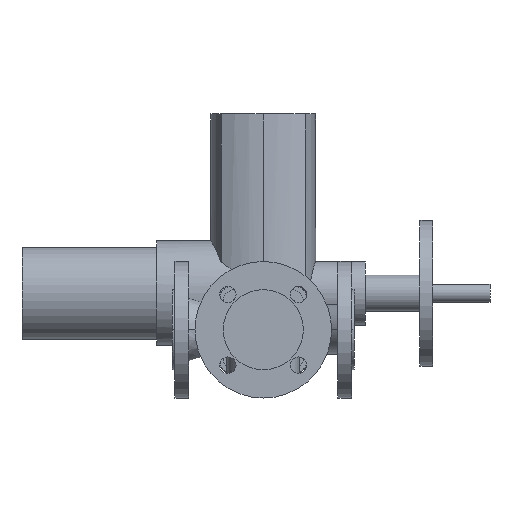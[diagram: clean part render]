
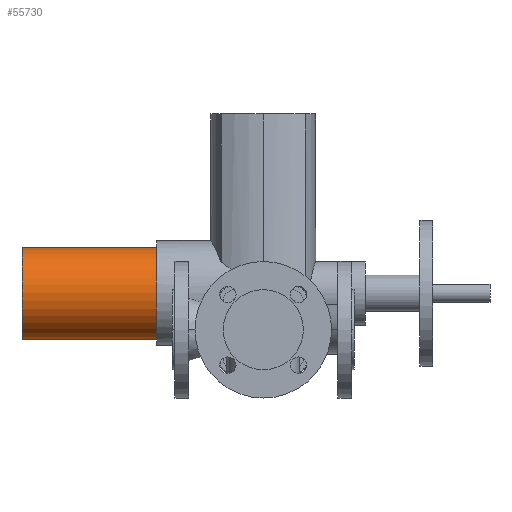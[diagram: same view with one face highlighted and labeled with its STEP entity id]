
A CAD part, front view. The second image highlights one B-rep face of the part: STEP entity #55730.
In plain terms, the highlighted cylindrical face has radius 50.5 mm (diameter 101 mm), a partial arc.
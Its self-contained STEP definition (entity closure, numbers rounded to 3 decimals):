
#55320=CARTESIAN_POINT('',(-91.,613.5,40.));
#55330=DIRECTION('',(1.,0.,0.));
#55340=DIRECTION('',(0.,0.,-1.));
#55350=AXIS2_PLACEMENT_3D('',#55320,#55330,#55340);
#55360=CYLINDRICAL_SURFACE('',#55350,50.5);
#55370=CARTESIAN_POINT('',(-91.,613.5,-10.5));
#55380=DIRECTION('',(1.,0.,0.));
#55390=VECTOR('',#55380,1.);
#55400=LINE('',#55370,#55390);
#55410=CARTESIAN_POINT('',(-165.,613.5,-10.5));
#55420=VERTEX_POINT('',#55410);
#55430=CARTESIAN_POINT('',(-17.,613.5,-10.5));
#55440=VERTEX_POINT('',#55430);
#55450=EDGE_CURVE('',#55420,#55440,#55400,.T.);
#55460=ORIENTED_EDGE('',*,*,#55450,.T.);
#55470=CARTESIAN_POINT('',(-165.,613.5,40.));
#55480=DIRECTION('',(-1.,0.,0.));
#55490=DIRECTION('',(0.,0.,-1.));
#55500=AXIS2_PLACEMENT_3D('',#55470,#55480,#55490);
#55510=CIRCLE('',#55500,50.5);
#55520=CARTESIAN_POINT('',(-165.,613.5,90.5));
#55530=VERTEX_POINT('',#55520);
#55540=EDGE_CURVE('',#55420,#55530,#55510,.T.);
#55550=ORIENTED_EDGE('',*,*,#55540,.F.);
#55560=CARTESIAN_POINT('',(-91.,613.5,90.5));
#55570=DIRECTION('',(1.,0.,0.));
#55580=VECTOR('',#55570,1.);
#55590=LINE('',#55560,#55580);
#55600=CARTESIAN_POINT('',(-17.,613.5,90.5));
#55610=VERTEX_POINT('',#55600);
#55620=EDGE_CURVE('',#55530,#55610,#55590,.T.);
#55630=ORIENTED_EDGE('',*,*,#55620,.F.);
#55640=CARTESIAN_POINT('',(-17.,613.5,40.));
#55650=DIRECTION('',(-1.,0.,0.));
#55660=DIRECTION('',(0.,0.,-1.));
#55670=AXIS2_PLACEMENT_3D('',#55640,#55650,#55660);
#55680=CIRCLE('',#55670,50.5);
#55690=EDGE_CURVE('',#55440,#55610,#55680,.T.);
#55700=ORIENTED_EDGE('',*,*,#55690,.T.);
#55710=EDGE_LOOP('',(#55700,#55630,#55550,#55460));
#55720=FACE_OUTER_BOUND('',#55710,.T.);
#55730=ADVANCED_FACE('',(#55720),#55360,.T.);
